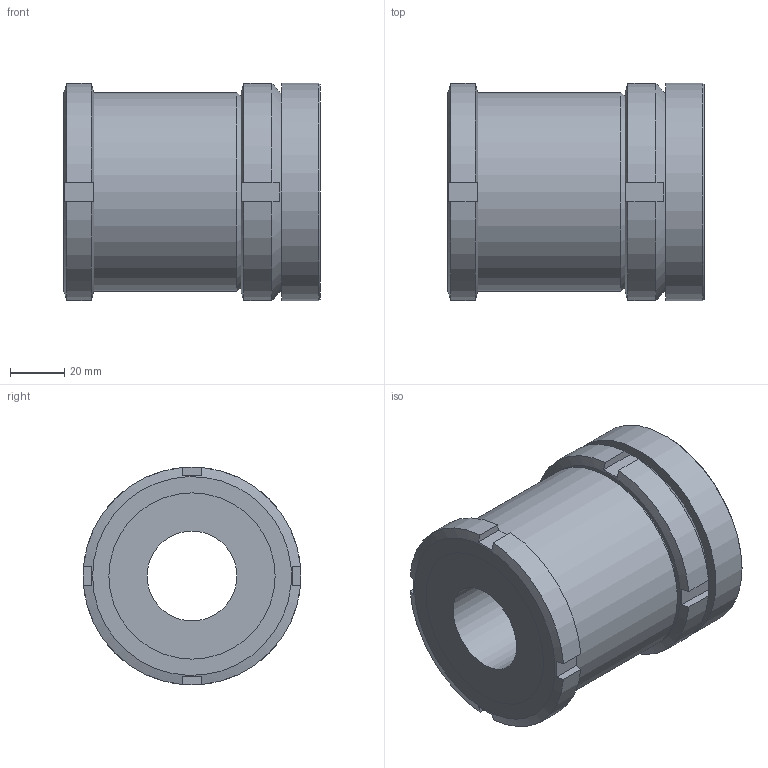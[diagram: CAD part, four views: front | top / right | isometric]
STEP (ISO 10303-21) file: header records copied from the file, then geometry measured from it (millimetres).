
FILE_DESCRIPTION( ( 'STEP AP203' ), '1' );
FILE_NAME( 'C:/Temp/Ganter_Step_05_03_2020/data/3_2/gn350_2/gn_350_2_st/Levelling set GN 350.2-80-33-94-ST (0-0).stp', '2020-03-13T05:28:02', ( 'License CC BY-ND 4.0' ), ( 'CADENAS' ), ' ', 'PARTsolutions', ' ' );
FILE_SCHEMA( ( 'CONFIG_CONTROL_DESIGN' ) );
Length unit declared in the file: millimetre
Products named in the file (4): Levelling set GN 350.2-80-33-94-ST (0-0); _Levelling set GN 350.2-80-33-94-ST-G; _Levelling set GN 350.2-80-33-94-ST-K; _Levelling set GN 350.2-80-33-94-ST-P(0)
Assembly tree (3 placements, depth 2):
  Levelling set GN 350.2-80-33-94-ST (0-0)
    _Levelling set GN 350.2-80-33-94-ST-G
    _Levelling set GN 350.2-80-33-94-ST-K
    _Levelling set GN 350.2-80-33-94-ST-P(0)
Bounding box: 94 x 80 x 80 mm (x, y, z)
Volume: 330934.1 mm3; surface area: 78211.4 mm2
Topology: 3 solids, 3 shells, 62 faces, 149 edges, 99 vertices
Faces by surface type: plane 36, cylinder 19, cone 5, sphere 2
Full cylindrical faces by diameter (mm): 33 x1, 48 x1, 53.529 x1, 54.5 x1, 57.835 x1, 60 x2, 61 x2, 73 x1, 80 x1
Entity records: 1925 total; most frequent: CARTESIAN_POINT 462, DIRECTION 276, ORIENTED_EDGE 248, EDGE_CURVE 124, AXIS2_PLACEMENT_3D 122, EDGE_LOOP 92, VERTEX_POINT 92, FACE_OUTER_BOUND 75
